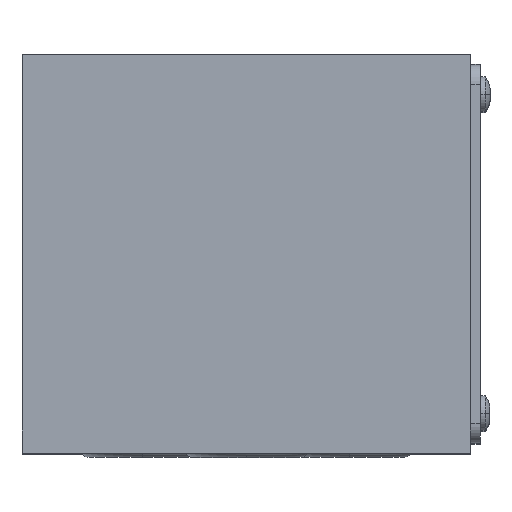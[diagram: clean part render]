
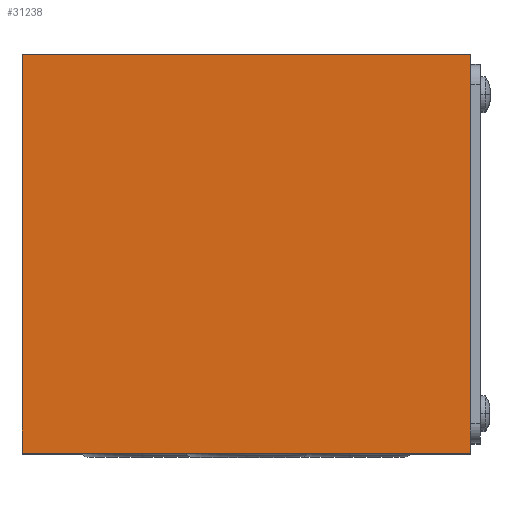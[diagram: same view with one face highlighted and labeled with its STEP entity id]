
A CAD part, top view. The second image highlights one B-rep face of the part: STEP entity #31238.
In plain terms, the highlighted planar face has unit normal (0, 0, 1) as drawn and (0, 0, -1) by its records, which use the part's own axes.
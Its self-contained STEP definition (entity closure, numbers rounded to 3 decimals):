
#124 = CARTESIAN_POINT ( 'NONE',  ( 22.5, 20., -32. ) ) ;
#3790 = VECTOR ( 'NONE', #21763, 1000. ) ;
#4088 = VECTOR ( 'NONE', #8884, 1000. ) ;
#8884 = DIRECTION ( 'NONE',  ( 0., 1., 0. ) ) ;
#10342 = ORIENTED_EDGE ( 'NONE', *, *, #51300, .F. ) ;
#20209 = VECTOR ( 'NONE', #92902, 1000. ) ;
#21763 = DIRECTION ( 'NONE',  ( 0., -1., 0. ) ) ;
#23646 = DIRECTION ( 'NONE',  ( 1., 0., 0. ) ) ;
#24656 = ORIENTED_EDGE ( 'NONE', *, *, #78009, .F. ) ;
#26072 = EDGE_CURVE ( 'NONE', #26821, #62227, #66576, .T. ) ;
#26821 = VERTEX_POINT ( 'NONE', #82326 ) ;
#26957 = LINE ( 'NONE', #82317, #3790 ) ;
#28068 = CARTESIAN_POINT ( 'NONE',  ( -22.5, 20., -32. ) ) ;
#29682 = ORIENTED_EDGE ( 'NONE', *, *, #30964, .F. ) ;
#30964 = EDGE_CURVE ( 'NONE', #62227, #40009, #50466, .T. ) ;
#31238 = ADVANCED_FACE ( 'NONE', ( #50355 ), #58373, .F. ) ;
#40009 = VERTEX_POINT ( 'NONE', #82113 ) ;
#40747 = CARTESIAN_POINT ( 'NONE',  ( -22.5, -20., -32. ) ) ;
#50355 = FACE_OUTER_BOUND ( 'NONE', #104647, .T. ) ;
#50466 = LINE ( 'NONE', #124, #4088 ) ;
#51300 = EDGE_CURVE ( 'NONE', #65396, #26821, #26957, .T. ) ;
#58373 = PLANE ( 'NONE',  #89140 ) ;
#62227 = VERTEX_POINT ( 'NONE', #72249 ) ;
#62639 = ORIENTED_EDGE ( 'NONE', *, *, #26072, .F. ) ;
#65396 = VERTEX_POINT ( 'NONE', #28068 ) ;
#66576 = LINE ( 'NONE', #40747, #20209 ) ;
#67122 = CARTESIAN_POINT ( 'NONE',  ( -22.5, -20., -32. ) ) ;
#72249 = CARTESIAN_POINT ( 'NONE',  ( 22.5, -20., -32. ) ) ;
#75892 = DIRECTION ( 'NONE',  ( 0., 0., 1. ) ) ;
#78009 = EDGE_CURVE ( 'NONE', #40009, #65396, #110579, .T. ) ;
#80243 = CARTESIAN_POINT ( 'NONE',  ( -22.5, 20., -32. ) ) ;
#82113 = CARTESIAN_POINT ( 'NONE',  ( 22.5, 20., -32. ) ) ;
#82317 = CARTESIAN_POINT ( 'NONE',  ( -22.5, 20., -32. ) ) ;
#82326 = CARTESIAN_POINT ( 'NONE',  ( -22.5, -20., -32. ) ) ;
#87340 = VECTOR ( 'NONE', #87934, 1000. ) ;
#87934 = DIRECTION ( 'NONE',  ( -1., 0., 0. ) ) ;
#89140 = AXIS2_PLACEMENT_3D ( 'NONE', #67122, #75892, #23646 ) ;
#92902 = DIRECTION ( 'NONE',  ( 1., 0., 0. ) ) ;
#104647 = EDGE_LOOP ( 'NONE', ( #10342, #24656, #29682, #62639 ) ) ;
#110579 = LINE ( 'NONE', #80243, #87340 ) ;
